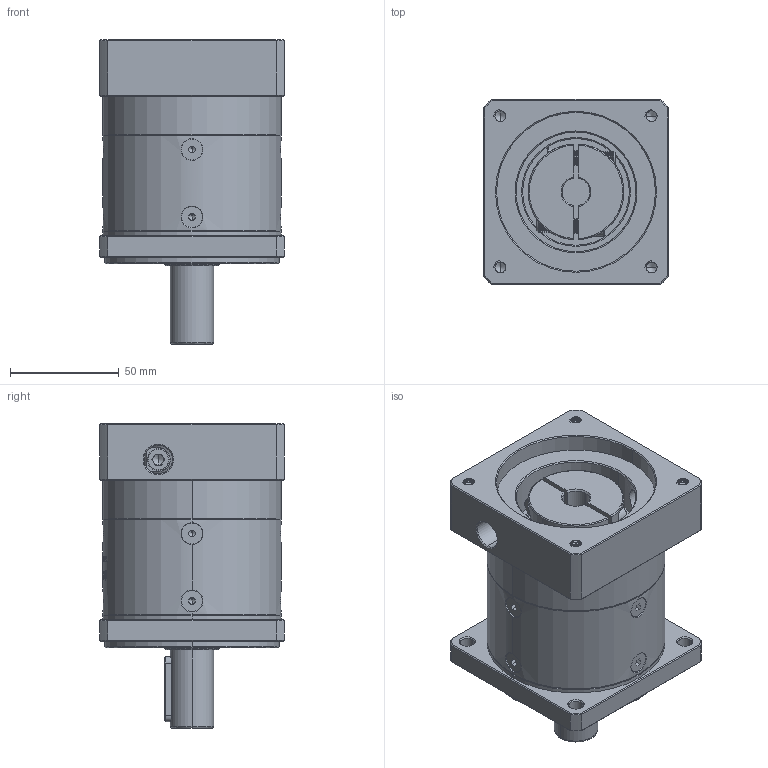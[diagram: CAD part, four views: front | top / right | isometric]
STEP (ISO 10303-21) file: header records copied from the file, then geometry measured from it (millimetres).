
FILE_DESCRIPTION (( 'STEP AP214' ), '1' );
FILE_NAME ('ZF80-D20-L1-12.7-73-69.6X69.6-M6.step', '2022-05-08T09:13:33', ( '' ), ( 'Microsoft' ), 'SwSTEP 2.0', 'SolidWorks 2016', '' );
FILE_SCHEMA (( 'AUTOMOTIVE_DESIGN' ));
Length unit declared in the file: millimetre
Products named in the file (1): ZF80-D20-L1-12.7-73-69.6X69.6-M6
Bounding box: 85 x 85 x 140 mm (x, y, z)
Volume: 544647.2 mm3; surface area: 89245 mm2
Topology: 13 solids, 13 shells, 1981 faces, 5130 edges, 3243 vertices
Faces by surface type: plane 896, cylinder 408, cone 340, bspline 320, torus 17
Entity records: 107826 total; most frequent: CARTESIAN_POINT 41278, ORIENTED_EDGE 10200, DIRECTION 8044, EDGE_CURVE 5100, VERTEX_POINT 3243, VECTOR 2768, LINE 2768, AXIS2_PLACEMENT_3D 2638
